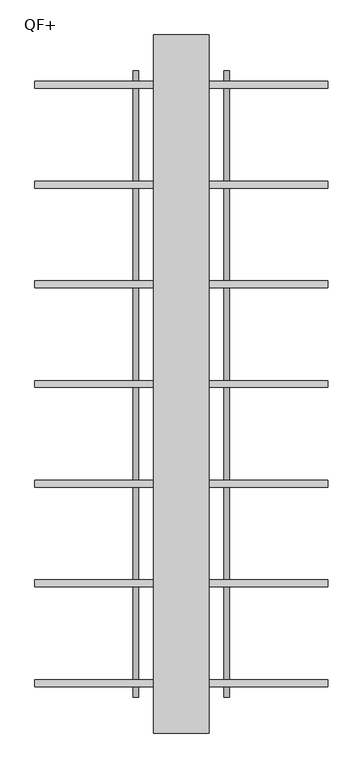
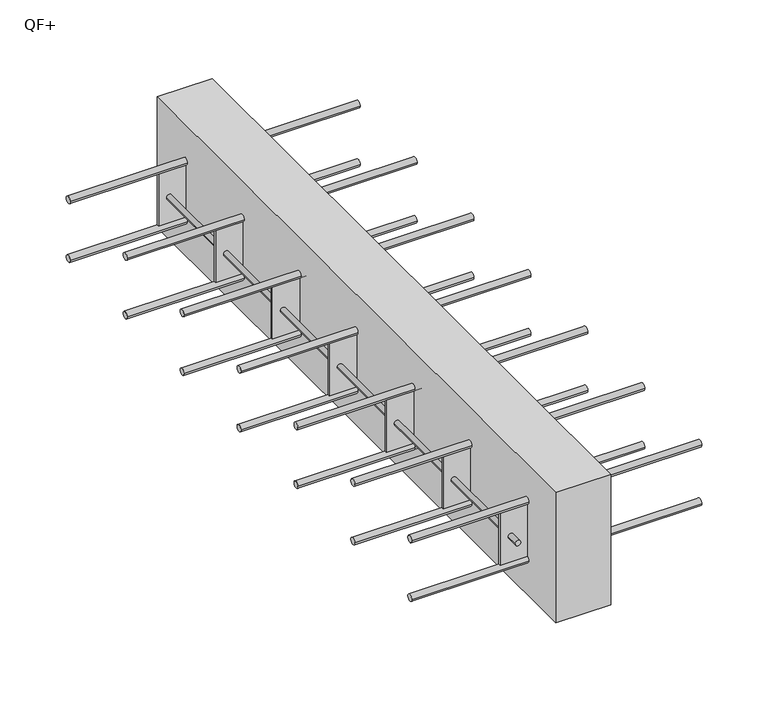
"""IFC4 building model written with IfcOpenShell, lengths in millimetres: fastener geometry, ACINOXplus_Typenreihe_Q : QF+."""

from ifc_helpers import new_model, si_unit, point, frame, frame_2d, origin, place, context, project, spatial, polyline, circle_curve, trimmed, segment, composite_curve, outline, extrude, source, transform, mapped, element, save


def qf_f6bdf651(model_context):
    return source(origin(), model_context, "Body", "SweptSolid", [
        extrude(outline(polyline([(40.0, 500.0), (40.0, -500.0), (-40.0, -500.0), (-40.0, 500.0), (40.0, 500.0)])), frame((0.0, 0.0, -200.0), z_axis=(0.0, 0.0, 1.0), x_axis=(1.0, 0.0, 0.0)), (0.0, 0.0, 1.0), 200.0),
        extrude(outline(polyline([(80.0, -284.2142857), (80.0, -287.2142857), (-80.0, -287.2142857), (-80.0, -284.2142857), (80.0, -284.2142857)])), frame((0.0, 0.0, -140.0), z_axis=(0.0, 0.0, 1.0), x_axis=(1.0, 0.0, 0.0)), (0.0, 0.0, 1.0), 80.0),
        extrude(outline(polyline([(80.0, -141.3571429), (80.0, -144.3571429), (-80.0, -144.3571429), (-80.0, -141.3571429), (80.0, -141.3571429)])), frame((0.0, 0.0, -140.0), z_axis=(0.0, 0.0, 1.0), x_axis=(1.0, 0.0, 0.0)), (0.0, 0.0, 1.0), 80.0),
        extrude(outline(polyline([(80.0, 1.5), (80.0, -1.5), (-80.0, -1.5), (-80.0, 1.5), (80.0, 1.5)])), frame((0.0, 0.0, -140.0), z_axis=(0.0, 0.0, 1.0), x_axis=(1.0, 0.0, 0.0)), (0.0, 0.0, 1.0), 80.0),
        extrude(outline(polyline([(80.0, 144.3571429), (80.0, 141.3571429), (-80.0, 141.3571429), (-80.0, 144.3571429), (80.0, 144.3571429)])), frame((0.0, 0.0, -140.0), z_axis=(0.0, 0.0, 1.0), x_axis=(1.0, 0.0, 0.0)), (0.0, 0.0, 1.0), 80.0),
        extrude(outline(polyline([(80.0, 287.2142857), (80.0, 284.2142857), (-80.0, 284.2142857), (-80.0, 287.2142857), (80.0, 287.2142857)])), frame((0.0, 0.0, -140.0), z_axis=(0.0, 0.0, 1.0), x_axis=(1.0, 0.0, 0.0)), (0.0, 0.0, 1.0), 80.0),
        extrude(outline(polyline([(80.0, -427.0714286), (80.0, -430.0714286), (-80.0, -430.0714286), (-80.0, -427.0714286), (80.0, -427.0714286)])), frame((0.0, 0.0, -140.0), z_axis=(0.0, 0.0, 1.0), x_axis=(1.0, 0.0, 0.0)), (0.0, 0.0, 1.0), 80.0),
        extrude(outline(polyline([(80.0, 430.0714286), (80.0, 427.0714286), (-80.0, 427.0714286), (-80.0, 430.0714286), (80.0, 430.0714286)])), frame((0.0, 0.0, -140.0), z_axis=(0.0, 0.0, 1.0), x_axis=(1.0, 0.0, 0.0)), (0.0, 0.0, 1.0), 80.0),
        extrude(outline(composite_curve([segment(trimmed(circle_curve(frame_2d((-100.0, -65.0)), 4.0), [point((-100.0, -69.0))], [point((-100.0, -61.0))], False, "CARTESIAN"), True, "CONTINUOUS"), segment(trimmed(circle_curve(frame_2d((-100.0, -65.0)), 4.0), [point((-100.0, -61.0))], [point((-100.0, -69.0))], False, "CARTESIAN"), True, "CONTINUOUS")], self_intersect=False)), frame((0.0, -427.0714286, 0.0), z_axis=(0.0, 1.0, 0.0), x_axis=(0.0, 0.0, 1.0)), (0.0, 0.0, 1.0), 711.2857143),
        extrude(outline(composite_curve([segment(trimmed(circle_curve(frame_2d((-100.0, -65.0)), 4.0), [point((-100.0, -69.0))], [point((-100.0, -61.0))], False, "CARTESIAN"), True, "CONTINUOUS"), segment(trimmed(circle_curve(frame_2d((-100.0, -65.0)), 4.0), [point((-100.0, -61.0))], [point((-100.0, -69.0))], False, "CARTESIAN"), True, "CONTINUOUS")], self_intersect=False)), frame((0.0, 430.0714286, 0.0), z_axis=(0.0, 1.0, 0.0), x_axis=(0.0, 0.0, 1.0)), (0.0, 0.0, 1.0), 18.5),
        extrude(outline(composite_curve([segment(trimmed(circle_curve(frame_2d((-100.0, -65.0)), 4.0), [point((-100.0, -61.0))], [point((-100.0, -69.0))], False, "CARTESIAN"), True, "CONTINUOUS"), segment(trimmed(circle_curve(frame_2d((-100.0, -65.0)), 4.0), [point((-100.0, -69.0))], [point((-100.0, -61.0))], False, "CARTESIAN"), True, "CONTINUOUS")], self_intersect=False)), frame((0.0, -448.5714286, 0.0), z_axis=(0.0, 1.0, 0.0), x_axis=(0.0, 0.0, 1.0)), (0.0, 0.0, 1.0), 18.5),
        extrude(outline(composite_curve([segment(trimmed(circle_curve(frame_2d((-100.0, -65.0)), 4.0), [point((-100.0, -69.0))], [point((-100.0, -61.0))], False, "CARTESIAN"), True, "CONTINUOUS"), segment(trimmed(circle_curve(frame_2d((-100.0, -65.0)), 4.0), [point((-100.0, -61.0))], [point((-100.0, -69.0))], False, "CARTESIAN"), True, "CONTINUOUS")], self_intersect=False)), frame((0.0, 287.2142857, 0.0), z_axis=(0.0, 1.0, 0.0), x_axis=(0.0, 0.0, 1.0)), (0.0, 0.0, 1.0), 139.8571429),
        extrude(outline(composite_curve([segment(trimmed(circle_curve(frame_2d((-100.0, 65.0)), 4.0), [point((-100.0, 61.0))], [point((-100.0, 69.0))], False, "CARTESIAN"), True, "CONTINUOUS"), segment(trimmed(circle_curve(frame_2d((-100.0, 65.0)), 4.0), [point((-100.0, 69.0))], [point((-100.0, 61.0))], False, "CARTESIAN"), True, "CONTINUOUS")], self_intersect=False)), frame((0.0, -427.0714286, 0.0), z_axis=(0.0, 1.0, 0.0), x_axis=(0.0, 0.0, 1.0)), (0.0, 0.0, 1.0), 711.2857143),
        extrude(outline(composite_curve([segment(trimmed(circle_curve(frame_2d((-100.0, 65.0)), 4.0), [point((-100.0, 61.0))], [point((-100.0, 69.0))], False, "CARTESIAN"), True, "CONTINUOUS"), segment(trimmed(circle_curve(frame_2d((-100.0, 65.0)), 4.0), [point((-100.0, 69.0))], [point((-100.0, 61.0))], False, "CARTESIAN"), True, "CONTINUOUS")], self_intersect=False)), frame((0.0, 430.0714286, 0.0), z_axis=(0.0, 1.0, 0.0), x_axis=(0.0, 0.0, 1.0)), (0.0, 0.0, 1.0), 18.5),
        extrude(outline(composite_curve([segment(trimmed(circle_curve(frame_2d((-100.0, 65.0)), 4.0), [point((-100.0, 69.0))], [point((-100.0, 61.0))], False, "CARTESIAN"), True, "CONTINUOUS"), segment(trimmed(circle_curve(frame_2d((-100.0, 65.0)), 4.0), [point((-100.0, 61.0))], [point((-100.0, 69.0))], False, "CARTESIAN"), True, "CONTINUOUS")], self_intersect=False)), frame((0.0, -448.5714286, 0.0), z_axis=(0.0, 1.0, 0.0), x_axis=(0.0, 0.0, 1.0)), (0.0, 0.0, 1.0), 18.5),
        extrude(outline(composite_curve([segment(trimmed(circle_curve(frame_2d((-100.0, 65.0)), 4.0), [point((-100.0, 61.0))], [point((-100.0, 69.0))], False, "CARTESIAN"), True, "CONTINUOUS"), segment(trimmed(circle_curve(frame_2d((-100.0, 65.0)), 4.0), [point((-100.0, 69.0))], [point((-100.0, 61.0))], False, "CARTESIAN"), True, "CONTINUOUS")], self_intersect=False)), frame((0.0, 287.2142857, 0.0), z_axis=(0.0, 1.0, 0.0), x_axis=(0.0, 0.0, 1.0)), (0.0, 0.0, 1.0), 139.8571429),
        extrude(outline(composite_curve([segment(trimmed(circle_curve(frame_2d((142.8571429, -145.0)), 5.0), [point((137.8571429, -145.0))], [point((147.8571429, -145.0))], False, "CARTESIAN"), True, "CONTINUOUS"), segment(trimmed(circle_curve(frame_2d((142.8571429, -145.0)), 5.0), [point((147.8571429, -145.0))], [point((137.8571429, -145.0))], False, "CARTESIAN"), True, "CONTINUOUS")], self_intersect=False)), frame((-210.0, 0.0, 0.0), z_axis=(1.0, 0.0, 0.0), x_axis=(0.0, 1.0, 0.0)), (0.0, 0.0, 1.0), 420.0),
        extrude(outline(composite_curve([segment(trimmed(circle_curve(frame_2d((0.0, -145.0)), 5.0), [point((-5.0, -145.0))], [point((5.0, -145.0))], False, "CARTESIAN"), True, "CONTINUOUS"), segment(trimmed(circle_curve(frame_2d((0.0, -145.0)), 5.0), [point((5.0, -145.0))], [point((-5.0, -145.0))], False, "CARTESIAN"), True, "CONTINUOUS")], self_intersect=False)), frame((-210.0, 0.0, 0.0), z_axis=(1.0, 0.0, 0.0), x_axis=(0.0, 1.0, 0.0)), (0.0, 0.0, 1.0), 420.0),
        extrude(outline(composite_curve([segment(trimmed(circle_curve(frame_2d((-142.8571429, -145.0)), 5.0), [point((-147.8571429, -145.0))], [point((-137.8571429, -145.0))], False, "CARTESIAN"), True, "CONTINUOUS"), segment(trimmed(circle_curve(frame_2d((-142.8571429, -145.0)), 5.0), [point((-137.8571429, -145.0))], [point((-147.8571429, -145.0))], False, "CARTESIAN"), True, "CONTINUOUS")], self_intersect=False)), frame((-210.0, 0.0, 0.0), z_axis=(1.0, 0.0, 0.0), x_axis=(0.0, 1.0, 0.0)), (0.0, 0.0, 1.0), 420.0),
        extrude(outline(composite_curve([segment(trimmed(circle_curve(frame_2d((285.7142857, -145.0)), 5.0), [point((280.7142857, -145.0))], [point((290.7142857, -145.0))], False, "CARTESIAN"), True, "CONTINUOUS"), segment(trimmed(circle_curve(frame_2d((285.7142857, -145.0)), 5.0), [point((290.7142857, -145.0))], [point((280.7142857, -145.0))], False, "CARTESIAN"), True, "CONTINUOUS")], self_intersect=False)), frame((-210.0, 0.0, 0.0), z_axis=(1.0, 0.0, 0.0), x_axis=(0.0, 1.0, 0.0)), (0.0, 0.0, 1.0), 420.0),
        extrude(outline(composite_curve([segment(trimmed(circle_curve(frame_2d((428.5714286, -145.0)), 5.0), [point((423.5714286, -145.0))], [point((433.5714286, -145.0))], False, "CARTESIAN"), True, "CONTINUOUS"), segment(trimmed(circle_curve(frame_2d((428.5714286, -145.0)), 5.0), [point((433.5714286, -145.0))], [point((423.5714286, -145.0))], False, "CARTESIAN"), True, "CONTINUOUS")], self_intersect=False)), frame((-210.0, 0.0, 0.0), z_axis=(1.0, 0.0, 0.0), x_axis=(0.0, 1.0, 0.0)), (0.0, 0.0, 1.0), 420.0),
        extrude(outline(composite_curve([segment(trimmed(circle_curve(frame_2d((-285.7142857, -145.0)), 5.0), [point((-290.7142857, -145.0))], [point((-280.7142857, -145.0))], False, "CARTESIAN"), True, "CONTINUOUS"), segment(trimmed(circle_curve(frame_2d((-285.7142857, -145.0)), 5.0), [point((-280.7142857, -145.0))], [point((-290.7142857, -145.0))], False, "CARTESIAN"), True, "CONTINUOUS")], self_intersect=False)), frame((-210.0, 0.0, 0.0), z_axis=(1.0, 0.0, 0.0), x_axis=(0.0, 1.0, 0.0)), (0.0, 0.0, 1.0), 420.0),
        extrude(outline(composite_curve([segment(trimmed(circle_curve(frame_2d((-428.5714286, -145.0)), 5.0), [point((-433.5714286, -145.0))], [point((-423.5714286, -145.0))], False, "CARTESIAN"), True, "CONTINUOUS"), segment(trimmed(circle_curve(frame_2d((-428.5714286, -145.0)), 5.0), [point((-423.5714286, -145.0))], [point((-433.5714286, -145.0))], False, "CARTESIAN"), True, "CONTINUOUS")], self_intersect=False)), frame((-210.0, 0.0, 0.0), z_axis=(1.0, 0.0, 0.0), x_axis=(0.0, 1.0, 0.0)), (0.0, 0.0, 1.0), 420.0),
        extrude(outline(composite_curve([segment(trimmed(circle_curve(frame_2d((142.8571429, -55.0)), 5.0), [point((137.8571429, -55.0))], [point((147.8571429, -55.0))], False, "CARTESIAN"), True, "CONTINUOUS"), segment(trimmed(circle_curve(frame_2d((142.8571429, -55.0)), 5.0), [point((147.8571429, -55.0))], [point((137.8571429, -55.0))], False, "CARTESIAN"), True, "CONTINUOUS")], self_intersect=False)), frame((-210.0, 0.0, 0.0), z_axis=(1.0, 0.0, 0.0), x_axis=(0.0, 1.0, 0.0)), (0.0, 0.0, 1.0), 420.0),
        extrude(outline(composite_curve([segment(trimmed(circle_curve(frame_2d((0.0, -55.0)), 5.0), [point((-5.0, -55.0))], [point((5.0, -55.0))], False, "CARTESIAN"), True, "CONTINUOUS"), segment(trimmed(circle_curve(frame_2d((0.0, -55.0)), 5.0), [point((5.0, -55.0))], [point((-5.0, -55.0))], False, "CARTESIAN"), True, "CONTINUOUS")], self_intersect=False)), frame((-210.0, 0.0, 0.0), z_axis=(1.0, 0.0, 0.0), x_axis=(0.0, 1.0, 0.0)), (0.0, 0.0, 1.0), 420.0),
        extrude(outline(composite_curve([segment(trimmed(circle_curve(frame_2d((-142.8571429, -55.0)), 5.0), [point((-147.8571429, -55.0))], [point((-137.8571429, -55.0))], False, "CARTESIAN"), True, "CONTINUOUS"), segment(trimmed(circle_curve(frame_2d((-142.8571429, -55.0)), 5.0), [point((-137.8571429, -55.0))], [point((-147.8571429, -55.0))], False, "CARTESIAN"), True, "CONTINUOUS")], self_intersect=False)), frame((-210.0, 0.0, 0.0), z_axis=(1.0, 0.0, 0.0), x_axis=(0.0, 1.0, 0.0)), (0.0, 0.0, 1.0), 420.0),
        extrude(outline(composite_curve([segment(trimmed(circle_curve(frame_2d((285.7142857, -55.0)), 5.0), [point((280.7142857, -55.0))], [point((290.7142857, -55.0))], False, "CARTESIAN"), True, "CONTINUOUS"), segment(trimmed(circle_curve(frame_2d((285.7142857, -55.0)), 5.0), [point((290.7142857, -55.0))], [point((280.7142857, -55.0))], False, "CARTESIAN"), True, "CONTINUOUS")], self_intersect=False)), frame((-210.0, 0.0, 0.0), z_axis=(1.0, 0.0, 0.0), x_axis=(0.0, 1.0, 0.0)), (0.0, 0.0, 1.0), 420.0),
        extrude(outline(composite_curve([segment(trimmed(circle_curve(frame_2d((428.5714286, -55.0)), 5.0), [point((423.5714286, -55.0))], [point((433.5714286, -55.0))], False, "CARTESIAN"), True, "CONTINUOUS"), segment(trimmed(circle_curve(frame_2d((428.5714286, -55.0)), 5.0), [point((433.5714286, -55.0))], [point((423.5714286, -55.0))], False, "CARTESIAN"), True, "CONTINUOUS")], self_intersect=False)), frame((-210.0, 0.0, 0.0), z_axis=(1.0, 0.0, 0.0), x_axis=(0.0, 1.0, 0.0)), (0.0, 0.0, 1.0), 420.0),
        extrude(outline(composite_curve([segment(trimmed(circle_curve(frame_2d((-285.7142857, -55.0)), 5.0), [point((-290.7142857, -55.0))], [point((-280.7142857, -55.0))], False, "CARTESIAN"), True, "CONTINUOUS"), segment(trimmed(circle_curve(frame_2d((-285.7142857, -55.0)), 5.0), [point((-280.7142857, -55.0))], [point((-290.7142857, -55.0))], False, "CARTESIAN"), True, "CONTINUOUS")], self_intersect=False)), frame((-210.0, 0.0, 0.0), z_axis=(1.0, 0.0, 0.0), x_axis=(0.0, 1.0, 0.0)), (0.0, 0.0, 1.0), 420.0),
        extrude(outline(composite_curve([segment(trimmed(circle_curve(frame_2d((-428.5714286, -55.0)), 5.0), [point((-433.5714286, -55.0))], [point((-423.5714286, -55.0))], False, "CARTESIAN"), True, "CONTINUOUS"), segment(trimmed(circle_curve(frame_2d((-428.5714286, -55.0)), 5.0), [point((-423.5714286, -55.0))], [point((-433.5714286, -55.0))], False, "CARTESIAN"), True, "CONTINUOUS")], self_intersect=False)), frame((-210.0, 0.0, 0.0), z_axis=(1.0, 0.0, 0.0), x_axis=(0.0, 1.0, 0.0)), (0.0, 0.0, 1.0), 420.0),
    ])


if __name__ == "__main__":
    model = new_model("IFC4")
    model_context = context("Model", 3, world=origin())
    ifc_project = project(units=[si_unit("LENGTHUNIT", "METRE", prefix="MILLI")], contexts=[model_context])
    site = spatial("IfcSite", under=ifc_project)
    building = spatial("IfcBuilding", under=site)
    placement = place(None, origin())
    qf_shape = qf_f6bdf651(model_context)
    element("IfcFastener", 1, ObjectType="ACINOXplus_Typenreihe_Q : QF+", at=placement, inside=building, context=model_context, shape_type="MappedRepresentation", body=[
        mapped(qf_shape, transform((0.0, 0.0, 0.0), x_axis=(1.0, 0.0, 0.0), y_axis=(0.0, 1.0, 0.0), z_axis=(0.0, 0.0, 1.0))),
    ])
    save(model, "model.ifc")
